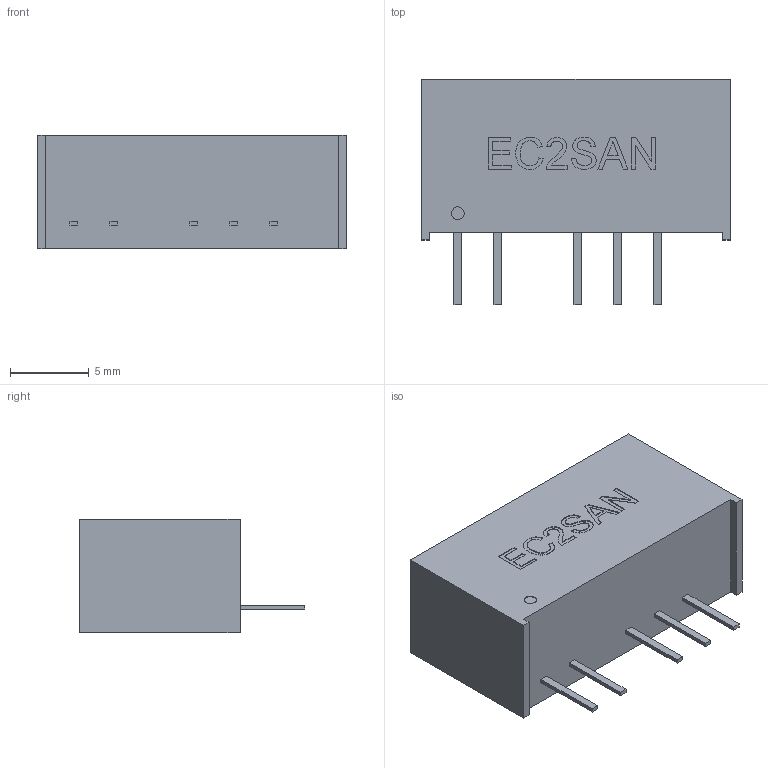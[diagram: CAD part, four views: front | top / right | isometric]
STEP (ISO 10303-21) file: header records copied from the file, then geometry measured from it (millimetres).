
FILE_DESCRIPTION (( 'STEP AP214' ), '1' );
FILE_NAME ('EC2SAN SIP.STEP', '2016-05-30T05:14:55', ( 'cincon' ), ( '' ), 'SwSTEP 2.0', 'SolidWorks 2008', '' );
FILE_SCHEMA (( 'AUTOMOTIVE_DESIGN' ));
Length unit declared in the file: millimetre
Products named in the file (1): EC2SAN SIP
Bounding box: 19.6 x 14.3 x 7.2 mm (x, y, z)
Volume: 1374.9 mm3; surface area: 855.3 mm2
Topology: 1 solids, 1 shells, 119 faces, 312 edges, 208 vertices
Faces by surface type: plane 84, bspline 33, cylinder 2
Entity records: 6520 total; most frequent: CARTESIAN_POINT 2865, ORIENTED_EDGE 624, DIRECTION 424, EDGE_CURVE 312, LINE 242, VECTOR 242, VERTEX_POINT 208, EDGE_LOOP 132
